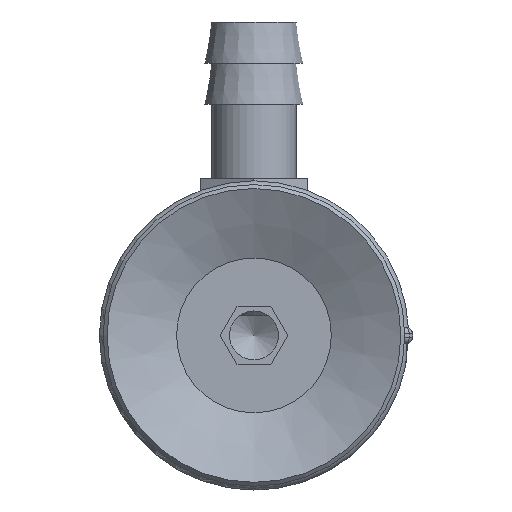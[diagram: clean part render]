
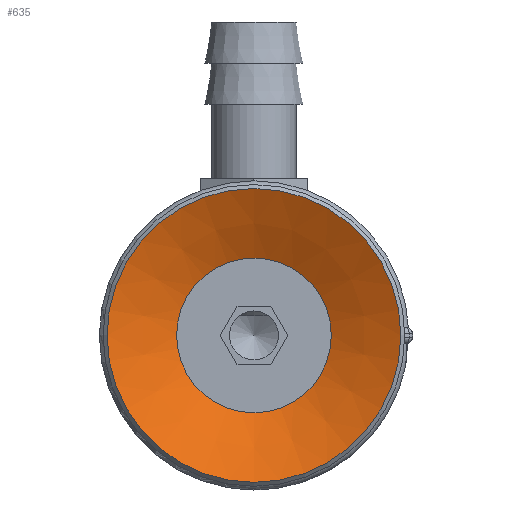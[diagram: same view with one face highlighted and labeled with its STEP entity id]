
A CAD part, front view. The second image highlights one B-rep face of the part: STEP entity #635.
In plain terms, the highlighted conical face has half-angle 64 degrees and reference radius 3.95 mm.
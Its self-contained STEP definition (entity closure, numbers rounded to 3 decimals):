
#635=ADVANCED_FACE('',(#962,#963),#964,.F.);
#962=FACE_BOUND('',#1384,.T.);
#963=FACE_OUTER_BOUND('',#1385,.T.);
#964=CONICAL_SURFACE('',#1386,3.95,1.117);
#1384=EDGE_LOOP('',(#2385));
#1385=EDGE_LOOP('',(#2386));
#1386=AXIS2_PLACEMENT_3D('',#2387,#2388,#2389);
#2385=ORIENTED_EDGE('',*,*,#2850,.F.);
#2386=ORIENTED_EDGE('',*,*,#2851,.T.);
#2387=CARTESIAN_POINT('',(0.0,-29.404,-47.168));
#2388=DIRECTION('',(-0.0,0.,1.0));
#2389=DIRECTION('',(0.0,-1.0,0.));
#2850=EDGE_CURVE('',#3315,#3315,#3316,.T.);
#2851=EDGE_CURVE('',#3317,#3317,#3318,.T.);
#3315=VERTEX_POINT('',#4427);
#3316=CIRCLE('',#4428,3.95);
#3317=VERTEX_POINT('',#4429);
#3318=CIRCLE('',#4430,7.5);
#4427=CARTESIAN_POINT('',(0.0,-33.354,-47.168));
#4428=AXIS2_PLACEMENT_3D('',#4917,#4918,#4919);
#4429=CARTESIAN_POINT('',(0.0,-36.904,-45.437));
#4430=AXIS2_PLACEMENT_3D('',#4920,#4921,#4922);
#4917=CARTESIAN_POINT('',(0.0,-29.404,-47.168));
#4918=DIRECTION('',(0.0,0.,1.0));
#4919=DIRECTION('',(0.0,-1.0,0.));
#4920=CARTESIAN_POINT('',(0.0,-29.404,-45.437));
#4921=DIRECTION('',(0.0,0.,1.0));
#4922=DIRECTION('',(0.0,-1.0,0.));
